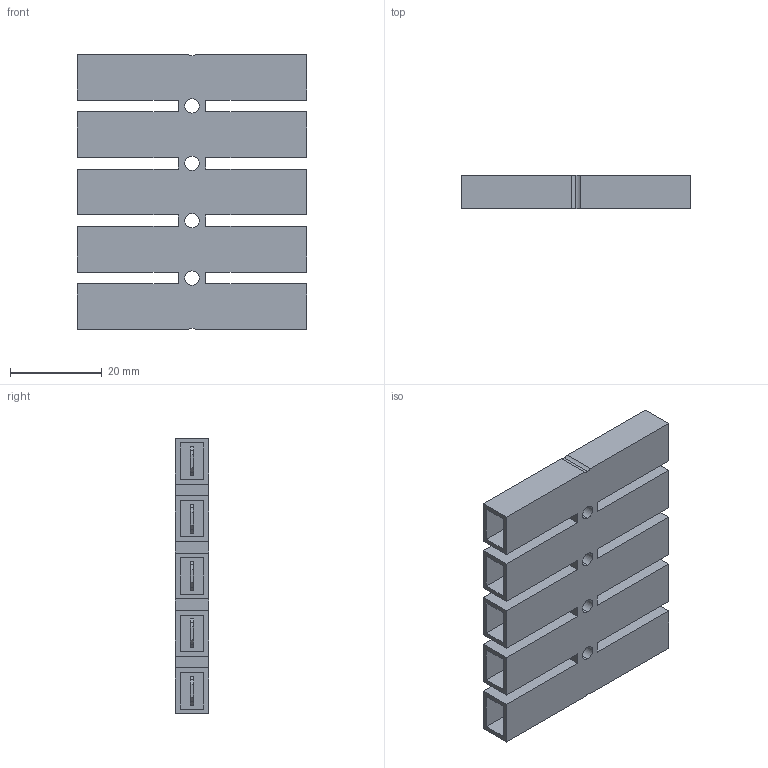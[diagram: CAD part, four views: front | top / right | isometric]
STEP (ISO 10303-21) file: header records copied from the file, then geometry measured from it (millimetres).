
FILE_DESCRIPTION (( 'STEP AP203' ), '1' );
FILE_NAME ('408-50-4.8-05.STEP', '2019-01-27T22:37:50', ( '' ), ( '' ), 'SwSTEP 2.0', 'SolidWorks 2016', '' );
FILE_SCHEMA (( 'CONFIG_CONTROL_DESIGN' ));
Length unit declared in the file: millimetre
Products named in the file (1): 408-50-4.8-05
Bounding box: 50 x 7.2 x 60 mm (x, y, z)
Volume: 9553.5 mm3; surface area: 16003.9 mm2
Topology: 1 solids, 1 shells, 267 faces, 695 edges, 450 vertices
Faces by surface type: plane 230, cylinder 37
Entity records: 8161 total; most frequent: CARTESIAN_POINT 1428, ORIENTED_EDGE 1390, DIRECTION 1300, EDGE_CURVE 695, VECTOR 616, LINE 616, VERTEX_POINT 450, AXIS2_PLACEMENT_3D 342
